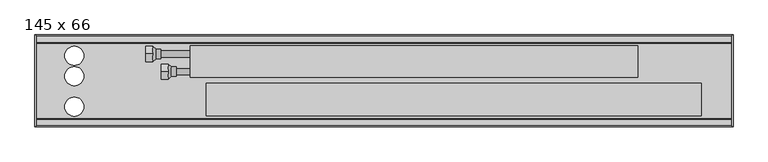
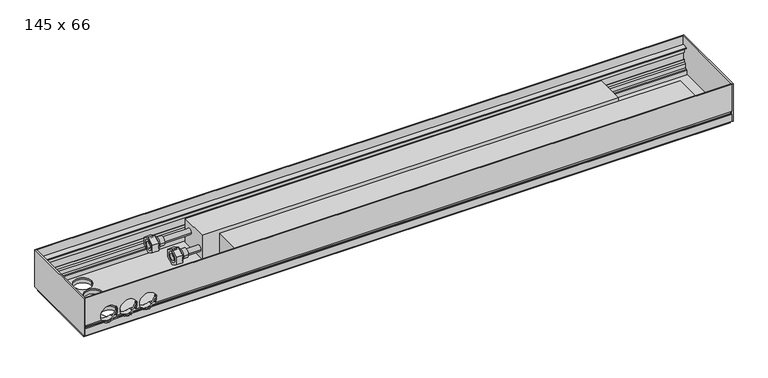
"""IFC4 building model written with IfcOpenShell, lengths in millimetres: proxy geometry, Mohlenhof_Внутрипольный конвектор_QSKM : 145 x 66."""

from ifc_helpers import new_model, si_unit, point, frame, frame_2d, origin, place, context, project, spatial, polyline, circle_curve, ellipse_curve, trimmed, segment, composite_curve, outline, extrude, source, transform, mapped, element, save
from ifc_brep_helpers import plane_surface, cylinder_surface, revolved_surface, advanced_brep


def proxy_145_x_66_fdde3b2e(model_context):
    return source(origin(), model_context, "Body", "SolidModel", [
        advanced_brep(
        [(-340.0, -158.0, -47.5), (-340.0, -146.0, -47.5), (-340.0, -170.0, -47.5), (-327.5, -165.5, -47.5), (-327.5, -150.5, -47.5), (-327.5, -158.0, -47.5), (-335.0, -165.5, -47.5), (-335.0, -150.5, -47.5)],
        [
            (0, 1),
            (1, 2, circle_curve(frame((-340.0, -158.0, -47.5), z_axis=(-1.0, 0.0, 0.0), x_axis=(0.0, 1.0, 0.0)), 12.0)),
            (2, 0),
            (2, 1, circle_curve(frame((-340.0, -158.0, -47.5), z_axis=(-1.0, 0.0, 0.0), x_axis=(0.0, 1.0, 0.0)), 12.0)),
            (3, 4, circle_curve(frame((-327.5, -158.0, -47.5), z_axis=(1.0, 0.0, 0.0), x_axis=(0.0, 1.0, 0.0)), 7.5)),
            (4, 5),
            (5, 3),
            (4, 3, circle_curve(frame((-327.5, -158.0, -47.5), z_axis=(1.0, 0.0, 0.0), x_axis=(0.0, 1.0, 0.0)), 7.5)),
            (6, 7, circle_curve(frame((-335.0, -158.0, -47.5), z_axis=(1.0, 0.0, 0.0), x_axis=(0.0, 1.0, 0.0)), 7.5)),
            (7, 4),
            (3, 6),
            (7, 6, circle_curve(frame((-335.0, -158.0, -47.5), z_axis=(1.0, 0.0, 0.0), x_axis=(0.0, 1.0, 0.0)), 7.5)),
            (1, 7),
            (6, 2),
        ],
        [
            plane_surface(frame((-340.0, -158.0, -47.5), z_axis=(-1.0, 0.0, 0.0), x_axis=(0.0, 1.0, 0.0))),
            plane_surface(frame((-327.5, -158.0, -47.5), z_axis=(1.0, 0.0, 0.0), x_axis=(0.0, 1.0, 0.0))),
            cylinder_surface(frame((-340.0, -158.0, -47.5), z_axis=(-1.0, 0.0, 0.0), x_axis=(0.0, 1.0, 0.0)), 7.5),
            revolved_surface(polyline([(-335.0, -150.5, -47.5), (-340.0, -146.0, -47.5)]), (-340.0, -158.0, -47.5), (-1.0, 0.0, 0.0)),
        ],
        [
            (0, [[1, 2, 3]]),
            (0, [[-3, 4, -1]]),
            (1, [[5, 6, 7]]),
            (1, [[8, -7, -6]]),
            (2, [[9, 10, -5, 11]]),
            (2, [[12, -11, -8, -10]]),
            (3, [[-2, 13, -9, 14]]),
            (3, [[-4, -14, -12, -13]]),
        ],
    ),
        extrude(outline(polyline([(-158.0, -33.6435935), (-146.0, -40.5717968), (-146.0, -54.4282032), (-158.0, -61.3564065), (-170.0, -54.4282032), (-170.0, -40.5717968), (-158.0, -33.6435935)]), holes=[composite_curve([segment(trimmed(circle_curve(frame_2d((-158.0, -47.5)), 8.5), [point((-149.5, -47.5))], [point((-166.5, -47.5))], True, "CARTESIAN"), True, "CONTINUOUS"), segment(trimmed(circle_curve(frame_2d((-158.0, -47.5)), 8.5), [point((-166.5, -47.5))], [point((-149.5, -47.5))], True, "CARTESIAN"), True, "CONTINUOUS")], self_intersect=False)]), frame((-351.0, 0.0, 0.0), z_axis=(1.0, 0.0, 0.0), x_axis=(0.0, 1.0, 0.0)), (0.0, 0.0, 1.0), 11.0),
        advanced_brep(
        [(-364.0, -130.0, -34.5), (-364.0, -118.0, -34.5), (-364.0, -142.0, -34.5), (-351.5, -137.5, -34.5), (-351.5, -122.5, -34.5), (-351.5, -130.0, -34.5), (-359.0, -137.5, -34.5), (-359.0, -122.5, -34.5)],
        [
            (0, 1),
            (1, 2, circle_curve(frame((-364.0, -130.0, -34.5), z_axis=(-1.0, 0.0, 0.0), x_axis=(0.0, 1.0, 0.0)), 12.0)),
            (2, 0),
            (2, 1, circle_curve(frame((-364.0, -130.0, -34.5), z_axis=(-1.0, 0.0, 0.0), x_axis=(0.0, 1.0, 0.0)), 12.0)),
            (3, 4, circle_curve(frame((-351.5, -130.0, -34.5), z_axis=(1.0, 0.0, 0.0), x_axis=(0.0, 1.0, 0.0)), 7.5)),
            (4, 5),
            (5, 3),
            (4, 3, circle_curve(frame((-351.5, -130.0, -34.5), z_axis=(1.0, 0.0, 0.0), x_axis=(0.0, 1.0, 0.0)), 7.5)),
            (6, 7, circle_curve(frame((-359.0, -130.0, -34.5), z_axis=(1.0, 0.0, 0.0), x_axis=(0.0, 1.0, 0.0)), 7.5)),
            (7, 4),
            (3, 6),
            (7, 6, circle_curve(frame((-359.0, -130.0, -34.5), z_axis=(1.0, 0.0, 0.0), x_axis=(0.0, 1.0, 0.0)), 7.5)),
            (1, 7),
            (6, 2),
        ],
        [
            plane_surface(frame((-364.0, -130.0, -34.5), z_axis=(-1.0, 0.0, 0.0), x_axis=(0.0, 1.0, 0.0))),
            plane_surface(frame((-351.5, -130.0, -34.5), z_axis=(1.0, 0.0, 0.0), x_axis=(0.0, 1.0, 0.0))),
            cylinder_surface(frame((-364.0, -130.0, -34.5), z_axis=(-1.0, 0.0, 0.0), x_axis=(0.0, 1.0, 0.0)), 7.5),
            revolved_surface(polyline([(-359.0, -122.5, -34.5), (-364.0, -118.0, -34.5)]), (-364.0, -130.0, -34.5), (-1.0, 0.0, 0.0)),
        ],
        [
            (0, [[1, 2, 3]]),
            (0, [[-3, 4, -1]]),
            (1, [[5, 6, 7]]),
            (1, [[8, -7, -6]]),
            (2, [[9, 10, -5, 11]]),
            (2, [[12, -11, -8, -10]]),
            (3, [[-2, 13, -9, 14]]),
            (3, [[-4, -14, -12, -13]]),
        ],
    ),
        extrude(outline(polyline([(-130.0, -20.6435935), (-118.0, -27.5717968), (-118.0, -41.4282032), (-130.0, -48.3564065), (-142.0, -41.4282032), (-142.0, -27.5717968), (-130.0, -20.6435935)]), holes=[composite_curve([segment(trimmed(circle_curve(frame_2d((-130.0, -34.5)), 8.5), [point((-121.5, -34.5))], [point((-138.5, -34.5))], True, "CARTESIAN"), True, "CONTINUOUS"), segment(trimmed(circle_curve(frame_2d((-130.0, -34.5)), 8.5), [point((-138.5, -34.5))], [point((-121.5, -34.5))], True, "CARTESIAN"), True, "CONTINUOUS")], self_intersect=False)]), frame((-375.0, 0.0, 0.0), z_axis=(1.0, 0.0, 0.0), x_axis=(0.0, 1.0, 0.0)), (0.0, 0.0, 1.0), 11.0),
        extrude(outline(composite_curve([segment(trimmed(circle_curve(frame_2d((-525.0, -223.5)), 4.5), [point((-529.5, -223.5))], [point((-520.5, -223.5))], False, "CARTESIAN"), True, "CONTINUOUS"), segment(trimmed(circle_curve(frame_2d((-525.0, -223.5)), 4.5), [point((-520.5, -223.5))], [point((-529.5, -223.5))], False, "CARTESIAN"), True, "CONTINUOUS")], self_intersect=False)), frame((0.0, 0.0, -79.0), z_axis=(0.0, 0.0, 1.0), x_axis=(1.0, 0.0, 0.0)), (0.0, 0.0, 1.0), 7.0),
        extrude(outline(composite_curve([segment(trimmed(circle_curve(frame_2d((-525.0, -223.5)), 4.0), [point((-529.0, -223.5))], [point((-521.0, -223.5))], False, "CARTESIAN"), True, "CONTINUOUS"), segment(trimmed(circle_curve(frame_2d((-525.0, -223.5)), 4.0), [point((-521.0, -223.5))], [point((-529.0, -223.5))], False, "CARTESIAN"), True, "CONTINUOUS")], self_intersect=False)), frame((0.0, 0.0, -72.0), z_axis=(0.0, 0.0, 1.0), x_axis=(1.0, 0.0, 0.0)), (0.0, 0.0, 1.0), 1.5),
        extrude(outline(composite_curve([segment(trimmed(circle_curve(frame_2d((-525.0, -121.5)), 4.5), [point((-529.5, -121.5))], [point((-520.5, -121.5))], False, "CARTESIAN"), True, "CONTINUOUS"), segment(trimmed(circle_curve(frame_2d((-525.0, -121.5)), 4.5), [point((-520.5, -121.5))], [point((-529.5, -121.5))], False, "CARTESIAN"), True, "CONTINUOUS")], self_intersect=False)), frame((0.0, 0.0, -79.0), z_axis=(0.0, 0.0, 1.0), x_axis=(1.0, 0.0, 0.0)), (0.0, 0.0, 1.0), 7.0),
        extrude(outline(composite_curve([segment(trimmed(circle_curve(frame_2d((-525.0, -121.5)), 4.0), [point((-529.0, -121.5))], [point((-521.0, -121.5))], False, "CARTESIAN"), True, "CONTINUOUS"), segment(trimmed(circle_curve(frame_2d((-525.0, -121.5)), 4.0), [point((-521.0, -121.5))], [point((-529.0, -121.5))], False, "CARTESIAN"), True, "CONTINUOUS")], self_intersect=False)), frame((0.0, 0.0, -72.0), z_axis=(0.0, 0.0, 1.0), x_axis=(1.0, 0.0, 0.0)), (0.0, 0.0, 1.0), 1.5),
        extrude(outline(composite_curve([segment(trimmed(circle_curve(frame_2d((525.0, -223.5)), 4.5), [point((520.5, -223.5))], [point((529.5, -223.5))], False, "CARTESIAN"), True, "CONTINUOUS"), segment(trimmed(circle_curve(frame_2d((525.0, -223.5)), 4.5), [point((529.5, -223.5))], [point((520.5, -223.5))], False, "CARTESIAN"), True, "CONTINUOUS")], self_intersect=False)), frame((0.0, 0.0, -79.0), z_axis=(0.0, 0.0, 1.0), x_axis=(1.0, 0.0, 0.0)), (0.0, 0.0, 1.0), 7.0),
        extrude(outline(composite_curve([segment(trimmed(circle_curve(frame_2d((525.0, -223.5)), 4.0), [point((521.0, -223.5))], [point((529.0, -223.5))], False, "CARTESIAN"), True, "CONTINUOUS"), segment(trimmed(circle_curve(frame_2d((525.0, -223.5)), 4.0), [point((529.0, -223.5))], [point((521.0, -223.5))], False, "CARTESIAN"), True, "CONTINUOUS")], self_intersect=False)), frame((0.0, 0.0, -72.0), z_axis=(0.0, 0.0, 1.0), x_axis=(1.0, 0.0, 0.0)), (0.0, 0.0, 1.0), 1.5),
        extrude(outline(composite_curve([segment(trimmed(circle_curve(frame_2d((525.0, -121.5)), 4.5), [point((520.5, -121.5))], [point((529.5, -121.5))], False, "CARTESIAN"), True, "CONTINUOUS"), segment(trimmed(circle_curve(frame_2d((525.0, -121.5)), 4.5), [point((529.5, -121.5))], [point((520.5, -121.5))], False, "CARTESIAN"), True, "CONTINUOUS")], self_intersect=False)), frame((0.0, 0.0, -79.0), z_axis=(0.0, 0.0, 1.0), x_axis=(1.0, 0.0, 0.0)), (0.0, 0.0, 1.0), 7.0),
        extrude(outline(composite_curve([segment(trimmed(circle_curve(frame_2d((525.0, -121.5)), 4.0), [point((521.0, -121.5))], [point((529.0, -121.5))], False, "CARTESIAN"), True, "CONTINUOUS"), segment(trimmed(circle_curve(frame_2d((525.0, -121.5)), 4.0), [point((529.0, -121.5))], [point((521.0, -121.5))], False, "CARTESIAN"), True, "CONTINUOUS")], self_intersect=False)), frame((0.0, 0.0, -72.0), z_axis=(0.0, 0.0, 1.0), x_axis=(1.0, 0.0, 0.0)), (0.0, 0.0, 1.0), 1.5),
        extrude(outline(polyline([(500.0, -175.87), (500.0, -227.18), (-280.0, -227.18), (-280.0, -175.87), (500.0, -175.87)])), frame((0.0, 0.0, -62.5), z_axis=(0.0, 0.0, 1.0), x_axis=(1.0, 0.0, 0.0)), (0.0, 0.0, 1.0), 43.62),
        extrude(outline(composite_curve([segment(trimmed(circle_curve(frame_2d((-158.0, -47.5)), 5.0), [point((-163.0, -47.5))], [point((-153.0, -47.5))], False, "CARTESIAN"), True, "CONTINUOUS"), segment(trimmed(circle_curve(frame_2d((-158.0, -47.5)), 5.0), [point((-153.0, -47.5))], [point((-163.0, -47.5))], False, "CARTESIAN"), True, "CONTINUOUS")], self_intersect=False)), frame((-351.0, 0.0, 0.0), z_axis=(1.0, 0.0, 0.0), x_axis=(0.0, 1.0, 0.0)), (0.0, 0.0, 1.0), 46.0),
        extrude(outline(composite_curve([segment(trimmed(circle_curve(frame_2d((-130.0, -34.5)), 5.0), [point((-135.0, -34.5))], [point((-125.0, -34.5))], False, "CARTESIAN"), True, "CONTINUOUS"), segment(trimmed(circle_curve(frame_2d((-130.0, -34.5)), 5.0), [point((-125.0, -34.5))], [point((-135.0, -34.5))], False, "CARTESIAN"), True, "CONTINUOUS")], self_intersect=False)), frame((-375.0, 0.0, 0.0), z_axis=(1.0, 0.0, 0.0), x_axis=(0.0, 1.0, 0.0)), (0.0, 0.0, 1.0), 70.0),
        advanced_brep(
        [(548.0, -245.0, -48.5473602), (548.0, -243.5, -49.2468216), (548.0, -242.5, -49.2468216), (548.0, -242.5, -46.0008038), (548.0, -240.0, -46.0008038), (548.0, -240.0, -56.5008038), (548.0, -242.5, -56.5008038), (548.0, -242.5, -53.2468216), (548.0, -243.5, -53.2468216), (548.0, -245.0, -53.9462831), (548.0, -245.0, -66.5), (548.0, -241.0, -66.5), (548.0, -241.0, -65.2), (548.0, -243.0, -65.2), (548.0, -243.0, -62.5), (548.0, -232.0, -62.5), (548.0, -232.0, -54.9172677), (548.0, -233.4172677, -53.5), (548.0, -237.0, -53.5), (548.0, -237.0, -45.91), (548.0, -239.0, -43.91), (548.0, -239.0, -39.5), (548.0, -240.0, -39.5), (548.0, -240.0, -43.5), (548.0, -242.4956439, -43.5), (548.0, -242.4956439, -23.0), (548.0, -240.0, -23.0), (548.0, -240.0, -27.0), (548.0, -239.0, -27.0), (548.0, -239.0, -17.0), (548.0, -233.3956439, -17.0), (548.0, -233.3956439, -15.0), (548.0, -243.4, -15.0), (548.0, -243.4, 0.0), (548.0, -245.0, 0.0), (-548.0, -245.0, -48.5473602), (-548.0, -245.0, 0.0), (-548.0, -243.4, 0.0), (-548.0, -243.4, -15.0), (-548.0, -233.3956439, -15.0), (-548.0, -233.3956439, -17.0), (-548.0, -239.0, -17.0), (-548.0, -239.0, -27.0), (-548.0, -240.0, -27.0), (-548.0, -240.0, -23.0), (-548.0, -242.4956439, -23.0), (-548.0, -242.4956439, -43.5), (-548.0, -240.0, -43.5), (-548.0, -240.0, -39.5), (-548.0, -239.0, -39.5), (-548.0, -239.0, -43.91), (-548.0, -237.0, -45.91), (-548.0, -237.0, -53.5), (-548.0, -233.4172677, -53.5), (-548.0, -232.0, -54.9172677), (-548.0, -232.0, -62.5), (-548.0, -243.0, -62.5), (-548.0, -243.0, -65.2), (-548.0, -241.0, -65.2), (-548.0, -241.0, -66.5), (-548.0, -245.0, -66.5), (-548.0, -245.0, -53.9462831), (-548.0, -243.5, -53.2468216), (-548.0, -242.5, -53.2468216), (-548.0, -242.5, -56.5008038), (-548.0, -240.0, -56.5008038), (-548.0, -240.0, -46.0008038), (-548.0, -242.5, -46.0008038), (-548.0, -242.5, -49.2468216), (-548.0, -243.5, -49.2468216), (-428.7585985, -245.0, -48.5473602), (-429.155283, -243.5, -49.2468216), (-520.844717, -243.5, -49.2468216), (-521.2414015, -245.0, -48.5473602), (-488.2414015, -245.0, -48.5473602), (-494.7585985, -245.0, -48.5473602), (-495.155283, -243.5, -49.2468216), (-487.844717, -243.5, -49.2468216), (-455.2414015, -245.0, -48.5473602), (-461.7585985, -245.0, -48.5473602), (-462.155283, -243.5, -49.2468216), (-454.844717, -243.5, -49.2468216), (-429.155283, -242.5, -49.2468216), (-520.844717, -242.5, -49.2468216), (-495.155283, -242.5, -49.2468216), (-487.844717, -242.5, -49.2468216), (-462.155283, -242.5, -49.2468216), (-454.844717, -242.5, -49.2468216), (-427.6911648, -242.5, -46.0008038), (-522.3088352, -242.5, -46.0008038), (-493.6911648, -242.5, -46.0008038), (-489.3088352, -242.5, -46.0008038), (-460.6911648, -242.5, -46.0008038), (-456.3088352, -242.5, -46.0008038), (-427.6911648, -240.0, -46.0008038), (-522.3088352, -240.0, -46.0008038), (-493.6911648, -240.0, -46.0008038), (-489.3088352, -240.0, -46.0008038), (-460.6911648, -240.0, -46.0008038), (-456.3088352, -240.0, -46.0008038), (-517.328032, -242.5, -53.2468216), (-498.671968, -242.5, -53.2468216), (-484.328032, -242.5, -53.2468216), (-465.671968, -242.5, -53.2468216), (-451.328032, -242.5, -53.2468216), (-432.671968, -242.5, -53.2468216), (-432.671968, -243.5, -53.2468216), (-517.328032, -243.5, -53.2468216), (-498.671968, -243.5, -53.2468216), (-484.328032, -243.5, -53.2468216), (-465.671968, -243.5, -53.2468216), (-451.328032, -243.5, -53.2468216), (-433.6280208, -245.0, -53.9462831), (-516.3719792, -245.0, -53.9462831), (-499.6280208, -245.0, -53.9462831), (-483.3719792, -245.0, -53.9462831), (-466.6280208, -245.0, -53.9462831), (-450.3719792, -245.0, -53.9462831), (-514.7064841, -232.0, -54.9172677), (-501.2935159, -232.0, -54.9172677), (-481.7064841, -232.0, -54.9172677), (-468.2935159, -232.0, -54.9172677), (-448.7064841, -232.0, -54.9172677), (-435.2935159, -232.0, -54.9172677), (-433.0, -233.4172677, -53.5), (-517.0, -233.4172677, -53.5), (-499.0, -233.4172677, -53.5), (-484.0, -233.4172677, -53.5), (-466.0, -233.4172677, -53.5), (-451.0, -233.4172677, -53.5), (-433.0, -237.0, -53.5), (-517.0, -237.0, -53.5), (-499.0, -237.0, -53.5), (-484.0, -237.0, -53.5), (-466.0, -237.0, -53.5), (-451.0, -237.0, -53.5), (-427.6629187, -237.0, -45.91), (-522.3370813, -237.0, -45.91), (-493.6629187, -237.0, -45.91), (-489.3370813, -237.0, -45.91), (-460.6629187, -237.0, -45.91), (-456.3370813, -237.0, -45.91), (-427.1948691, -239.0, -43.91), (-522.8051309, -239.0, -43.91), (-493.1948691, -239.0, -43.91), (-489.8051309, -239.0, -43.91), (-460.1948691, -239.0, -43.91), (-456.8051309, -239.0, -43.91), (-427.0, -239.0, -41.5), (-427.1339313, -239.0, -39.5), (-522.8660687, -239.0, -39.5), (-523.0, -239.0, -41.5), (-493.0, -239.0, -41.5), (-493.1339313, -239.0, -39.5), (-489.8660687, -239.0, -39.5), (-490.0, -239.0, -41.5), (-460.0, -239.0, -41.5), (-460.1339313, -239.0, -39.5), (-456.8660687, -239.0, -39.5), (-457.0, -239.0, -41.5), (-427.1339313, -240.0, -39.5), (-522.8660687, -240.0, -39.5), (-493.1339313, -240.0, -39.5), (-489.8660687, -240.0, -39.5), (-460.1339313, -240.0, -39.5), (-456.8660687, -240.0, -39.5), (-427.0, -240.0, -41.5), (-427.1339313, -240.0, -43.5), (-522.8660687, -240.0, -43.5), (-523.0, -240.0, -41.5), (-493.0, -240.0, -41.5), (-493.1339313, -240.0, -43.5), (-489.8660687, -240.0, -43.5), (-490.0, -240.0, -41.5), (-460.0, -240.0, -41.5), (-460.1339313, -240.0, -43.5), (-456.8660687, -240.0, -43.5), (-457.0, -240.0, -41.5), (-427.1339313, -242.4956439, -43.5), (-522.8660687, -242.4956439, -43.5), (-493.1339313, -242.4956439, -43.5), (-489.8660687, -242.4956439, -43.5), (-460.1339313, -242.4956439, -43.5), (-456.8660687, -242.4956439, -43.5), (-427.0, -242.4956439, -41.5), (-457.0, -242.4956439, -41.5), (-460.0, -242.4956439, -41.5), (-490.0, -242.4956439, -41.5), (-493.0, -242.4956439, -41.5), (-523.0, -242.4956439, -41.5), (-511.8405729, -240.0, -27.0), (-504.1594271, -240.0, -27.0), (-478.8405729, -240.0, -27.0), (-471.1594271, -240.0, -27.0), (-445.8405729, -240.0, -27.0), (-438.1594271, -240.0, -27.0), (-438.1594271, -239.0, -27.0), (-511.8405729, -239.0, -27.0), (-504.1594271, -239.0, -27.0), (-478.8405729, -239.0, -27.0), (-471.1594271, -239.0, -27.0), (-445.8405729, -239.0, -27.0), (-523.0, -245.0, -41.5), (-493.0, -245.0, -41.5), (-490.0, -245.0, -41.5), (-460.0, -245.0, -41.5), (-457.0, -245.0, -41.5), (-427.0, -245.0, -41.5)],
        [
            (0, 1),
            (1, 2),
            (2, 3),
            (3, 4),
            (4, 5),
            (5, 6),
            (6, 7),
            (7, 8),
            (8, 9),
            (9, 10),
            (10, 11),
            (11, 12),
            (12, 13),
            (13, 14),
            (14, 15),
            (15, 16),
            (16, 17),
            (17, 18),
            (18, 19),
            (19, 20),
            (20, 21),
            (21, 22),
            (22, 23),
            (23, 24),
            (24, 25),
            (25, 26),
            (26, 27),
            (27, 28),
            (28, 29),
            (29, 30),
            (30, 31),
            (31, 32),
            (32, 33),
            (33, 34),
            (34, 0),
            (35, 36),
            (36, 37),
            (37, 38),
            (38, 39),
            (39, 40),
            (40, 41),
            (41, 42),
            (42, 43),
            (43, 44),
            (44, 45),
            (45, 46),
            (46, 47),
            (47, 48),
            (48, 49),
            (49, 50),
            (50, 51),
            (51, 52),
            (52, 53),
            (53, 54),
            (54, 55),
            (55, 56),
            (56, 57),
            (57, 58),
            (58, 59),
            (59, 60),
            (60, 61),
            (61, 62),
            (62, 63),
            (63, 64),
            (64, 65),
            (65, 66),
            (66, 67),
            (67, 68),
            (68, 69),
            (69, 35),
            (0, 70),
            (70, 71, ellipse_curve(frame((-442.0, -260.1131126, -41.5), z_axis=(0.0, 0.42261826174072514, 0.9063077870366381), x_axis=(0.0, -0.9063077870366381, 0.42261826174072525)), 35.4930237, 15.0)),
            (71, 1),
            (69, 72),
            (72, 73, ellipse_curve(frame((-508.0, -260.1131126, -41.5), z_axis=(0.0, 0.42261826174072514, 0.9063077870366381), x_axis=(0.0, -0.9063077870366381, 0.42261826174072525)), 35.4930237, 15.0)),
            (73, 35),
            (74, 75),
            (75, 76, ellipse_curve(frame((-508.0, -260.1131126, -41.5), z_axis=(0.0, 0.42261826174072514, 0.9063077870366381), x_axis=(0.0, -0.9063077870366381, 0.42261826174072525)), 35.4930237, 15.0)),
            (76, 77),
            (77, 74, ellipse_curve(frame((-475.0, -260.1131126, -41.5), z_axis=(0.0, 0.42261826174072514, 0.9063077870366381), x_axis=(0.0, -0.9063077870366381, 0.42261826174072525)), 35.4930237, 15.0)),
            (78, 79),
            (79, 80, ellipse_curve(frame((-475.0, -260.1131126, -41.5), z_axis=(0.0, 0.42261826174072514, 0.9063077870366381), x_axis=(0.0, -0.9063077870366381, 0.42261826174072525)), 35.4930237, 15.0)),
            (80, 81),
            (81, 78, ellipse_curve(frame((-442.0, -260.1131126, -41.5), z_axis=(0.0, 0.42261826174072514, 0.9063077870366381), x_axis=(0.0, -0.9063077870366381, 0.42261826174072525)), 35.4930237, 15.0)),
            (71, 82),
            (82, 2),
            (68, 83),
            (83, 72),
            (76, 84),
            (84, 85),
            (85, 77),
            (80, 86),
            (86, 87),
            (87, 81),
            (82, 88, circle_curve(frame((-442.0, -242.5, -41.5), z_axis=(0.0, -1.0, 0.0), x_axis=(1.0, 0.0, 0.0)), 15.0)),
            (88, 3),
            (67, 89),
            (89, 83, circle_curve(frame((-508.0, -242.5, -41.5), z_axis=(0.0, -1.0, 0.0), x_axis=(1.0, 0.0, 0.0)), 15.0)),
            (84, 90, circle_curve(frame((-508.0, -242.5, -41.5), z_axis=(0.0, -1.0, 0.0), x_axis=(1.0, 0.0, 0.0)), 15.0)),
            (90, 91),
            (91, 85, circle_curve(frame((-475.0, -242.5, -41.5), z_axis=(0.0, -1.0, 0.0), x_axis=(1.0, 0.0, 0.0)), 15.0)),
            (86, 92, circle_curve(frame((-475.0, -242.5, -41.5), z_axis=(0.0, -1.0, 0.0), x_axis=(1.0, 0.0, 0.0)), 15.0)),
            (92, 93),
            (93, 87, circle_curve(frame((-442.0, -242.5, -41.5), z_axis=(0.0, -1.0, 0.0), x_axis=(1.0, 0.0, 0.0)), 15.0)),
            (88, 94),
            (94, 4),
            (66, 95),
            (95, 89),
            (90, 96),
            (96, 97),
            (97, 91),
            (92, 98),
            (98, 99),
            (99, 93),
            (94, 99, circle_curve(frame((-442.0, -240.0, -41.5), z_axis=(0.0, 1.0, 0.0), x_axis=(1.0, 0.0, 0.0)), 15.0)),
            (98, 97, circle_curve(frame((-475.0, -240.0, -41.5), z_axis=(0.0, 1.0, 0.0), x_axis=(1.0, 0.0, 0.0)), 15.0)),
            (96, 95, circle_curve(frame((-508.0, -240.0, -41.5), z_axis=(0.0, 1.0, 0.0), x_axis=(1.0, 0.0, 0.0)), 15.0)),
            (65, 5),
            (64, 6),
            (63, 100),
            (100, 101, circle_curve(frame((-508.0, -242.5, -41.5), z_axis=(0.0, -1.0, 0.0), x_axis=(1.0, 0.0, 0.0)), 15.0)),
            (101, 102),
            (102, 103, circle_curve(frame((-475.0, -242.5, -41.5), z_axis=(0.0, -1.0, 0.0), x_axis=(1.0, 0.0, 0.0)), 15.0)),
            (103, 104),
            (104, 105, circle_curve(frame((-442.0, -242.5, -41.5), z_axis=(0.0, -1.0, 0.0), x_axis=(1.0, 0.0, 0.0)), 15.0)),
            (105, 7),
            (105, 106),
            (106, 8),
            (62, 107),
            (107, 100),
            (101, 108),
            (108, 109),
            (109, 102),
            (103, 110),
            (110, 111),
            (111, 104),
            (106, 112, ellipse_curve(frame((-442.0, -218.3088597, -41.5), z_axis=(0.0, 0.42261826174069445, -0.9063077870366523), x_axis=(0.0, -0.9063077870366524, -0.42261826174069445)), 35.4930237, 15.0)),
            (112, 9),
            (61, 113),
            (113, 107, ellipse_curve(frame((-508.0, -218.3088597, -41.5), z_axis=(0.0, 0.42261826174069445, -0.9063077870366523), x_axis=(0.0, -0.9063077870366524, -0.42261826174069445)), 35.4930237, 15.0)),
            (108, 114, ellipse_curve(frame((-508.0, -218.3088597, -41.5), z_axis=(0.0, 0.42261826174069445, -0.9063077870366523), x_axis=(0.0, -0.9063077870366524, -0.42261826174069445)), 35.4930237, 15.0)),
            (114, 115),
            (115, 109, ellipse_curve(frame((-475.0, -218.3088597, -41.5), z_axis=(0.0, 0.42261826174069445, -0.9063077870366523), x_axis=(0.0, -0.9063077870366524, -0.42261826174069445)), 35.4930237, 15.0)),
            (110, 116, ellipse_curve(frame((-475.0, -218.3088597, -41.5), z_axis=(0.0, 0.42261826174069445, -0.9063077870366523), x_axis=(0.0, -0.9063077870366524, -0.42261826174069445)), 35.4930237, 15.0)),
            (116, 117),
            (117, 111, ellipse_curve(frame((-442.0, -218.3088597, -41.5), z_axis=(0.0, 0.42261826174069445, -0.9063077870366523), x_axis=(0.0, -0.9063077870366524, -0.42261826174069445)), 35.4930237, 15.0)),
            (112, 117, circle_curve(frame((-442.0, -245.0, -41.5), z_axis=(0.0, 1.0, 0.0), x_axis=(1.0, 0.0, 0.0)), 15.0)),
            (116, 115, circle_curve(frame((-475.0, -245.0, -41.5), z_axis=(0.0, 1.0, 0.0), x_axis=(1.0, 0.0, 0.0)), 15.0)),
            (114, 113, circle_curve(frame((-508.0, -245.0, -41.5), z_axis=(0.0, 1.0, 0.0), x_axis=(1.0, 0.0, 0.0)), 15.0)),
            (60, 10),
            (59, 11),
            (58, 12),
            (57, 13),
            (56, 14),
            (55, 15),
            (54, 118),
            (118, 119, circle_curve(frame((-508.0, -232.0, -41.5), z_axis=(0.0, -1.0, 0.0), x_axis=(1.0, 0.0, 0.0)), 15.0)),
            (119, 120),
            (120, 121, circle_curve(frame((-475.0, -232.0, -41.5), z_axis=(0.0, -1.0, 0.0), x_axis=(1.0, 0.0, 0.0)), 15.0)),
            (121, 122),
            (122, 123, circle_curve(frame((-442.0, -232.0, -41.5), z_axis=(0.0, -1.0, 0.0), x_axis=(1.0, 0.0, 0.0)), 15.0)),
            (123, 16),
            (123, 124, ellipse_curve(frame((-442.0, -245.4172677, -41.5), z_axis=(0.0, -0.7071067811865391, -0.707106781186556), x_axis=(0.0, -0.7071067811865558, 0.7071067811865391)), 21.2132034, 15.0)),
            (124, 17),
            (53, 125),
            (125, 118, ellipse_curve(frame((-508.0, -245.4172677, -41.5), z_axis=(0.0, -0.7071067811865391, -0.707106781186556), x_axis=(0.0, -0.7071067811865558, 0.7071067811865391)), 21.2132034, 15.0)),
            (119, 126, ellipse_curve(frame((-508.0, -245.4172677, -41.5), z_axis=(0.0, -0.7071067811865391, -0.707106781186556), x_axis=(0.0, -0.7071067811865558, 0.7071067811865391)), 21.2132034, 15.0)),
            (126, 127),
            (127, 120, ellipse_curve(frame((-475.0, -245.4172677, -41.5), z_axis=(0.0, -0.7071067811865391, -0.707106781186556), x_axis=(0.0, -0.7071067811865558, 0.7071067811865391)), 21.2132034, 15.0)),
            (121, 128, ellipse_curve(frame((-475.0, -245.4172677, -41.5), z_axis=(0.0, -0.7071067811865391, -0.707106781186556), x_axis=(0.0, -0.7071067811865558, 0.7071067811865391)), 21.2132034, 15.0)),
            (128, 129),
            (129, 122, ellipse_curve(frame((-442.0, -245.4172677, -41.5), z_axis=(0.0, -0.7071067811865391, -0.707106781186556), x_axis=(0.0, -0.7071067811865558, 0.7071067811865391)), 21.2132034, 15.0)),
            (124, 130),
            (130, 18),
            (52, 131),
            (131, 125),
            (126, 132),
            (132, 133),
            (133, 127),
            (128, 134),
            (134, 135),
            (135, 129),
            (130, 136, circle_curve(frame((-442.0, -237.0, -41.5), z_axis=(0.0, -1.0, 0.0), x_axis=(1.0, 0.0, 0.0)), 15.0)),
            (136, 19),
            (51, 137),
            (137, 131, circle_curve(frame((-508.0, -237.0, -41.5), z_axis=(0.0, -1.0, 0.0), x_axis=(1.0, 0.0, 0.0)), 15.0)),
            (132, 138, circle_curve(frame((-508.0, -237.0, -41.5), z_axis=(0.0, -1.0, 0.0), x_axis=(1.0, 0.0, 0.0)), 15.0)),
            (138, 139),
            (139, 133, circle_curve(frame((-475.0, -237.0, -41.5), z_axis=(0.0, -1.0, 0.0), x_axis=(1.0, 0.0, 0.0)), 15.0)),
            (134, 140, circle_curve(frame((-475.0, -237.0, -41.5), z_axis=(0.0, -1.0, 0.0), x_axis=(1.0, 0.0, 0.0)), 15.0)),
            (140, 141),
            (141, 135, circle_curve(frame((-442.0, -237.0, -41.5), z_axis=(0.0, -1.0, 0.0), x_axis=(1.0, 0.0, 0.0)), 15.0)),
            (136, 142, ellipse_curve(frame((-442.0, -241.41, -41.5), z_axis=(0.0, -0.7071067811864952, -0.7071067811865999), x_axis=(0.0, -0.7071067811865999, 0.7071067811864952)), 21.2132034, 15.0)),
            (142, 20),
            (50, 143),
            (143, 137, ellipse_curve(frame((-508.0, -241.41, -41.5), z_axis=(0.0, -0.7071067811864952, -0.7071067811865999), x_axis=(0.0, -0.7071067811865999, 0.7071067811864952)), 21.2132034, 15.0)),
            (138, 144, ellipse_curve(frame((-508.0, -241.41, -41.5), z_axis=(0.0, -0.7071067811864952, -0.7071067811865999), x_axis=(0.0, -0.7071067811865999, 0.7071067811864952)), 21.2132034, 15.0)),
            (144, 145),
            (145, 139, ellipse_curve(frame((-475.0, -241.41, -41.5), z_axis=(0.0, -0.7071067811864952, -0.7071067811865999), x_axis=(0.0, -0.7071067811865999, 0.7071067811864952)), 21.2132034, 15.0)),
            (140, 146, ellipse_curve(frame((-475.0, -241.41, -41.5), z_axis=(0.0, -0.7071067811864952, -0.7071067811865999), x_axis=(0.0, -0.7071067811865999, 0.7071067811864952)), 21.2132034, 15.0)),
            (146, 147),
            (147, 141, ellipse_curve(frame((-442.0, -241.41, -41.5), z_axis=(0.0, -0.7071067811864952, -0.7071067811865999), x_axis=(0.0, -0.7071067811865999, 0.7071067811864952)), 21.2132034, 15.0)),
            (142, 148, circle_curve(frame((-442.0, -239.0, -41.5), z_axis=(0.0, -1.0, 0.0), x_axis=(1.0, 0.0, 0.0)), 15.0)),
            (148, 149, circle_curve(frame((-442.0, -239.0, -41.5), z_axis=(0.0, -1.0, 0.0), x_axis=(1.0, 0.0, 0.0)), 15.0)),
            (149, 21),
            (49, 150),
            (150, 151, circle_curve(frame((-508.0, -239.0, -41.5), z_axis=(0.0, -1.0, 0.0), x_axis=(1.0, 0.0, 0.0)), 15.0)),
            (151, 143, circle_curve(frame((-508.0, -239.0, -41.5), z_axis=(0.0, -1.0, 0.0), x_axis=(1.0, 0.0, 0.0)), 15.0)),
            (144, 152, circle_curve(frame((-508.0, -239.0, -41.5), z_axis=(0.0, -1.0, 0.0), x_axis=(1.0, 0.0, 0.0)), 15.0)),
            (152, 153, circle_curve(frame((-508.0, -239.0, -41.5), z_axis=(0.0, -1.0, 0.0), x_axis=(1.0, 0.0, 0.0)), 15.0)),
            (153, 154),
            (154, 155, circle_curve(frame((-475.0, -239.0, -41.5), z_axis=(0.0, -1.0, 0.0), x_axis=(1.0, 0.0, 0.0)), 15.0)),
            (155, 145, circle_curve(frame((-475.0, -239.0, -41.5), z_axis=(0.0, -1.0, 0.0), x_axis=(1.0, 0.0, 0.0)), 15.0)),
            (146, 156, circle_curve(frame((-475.0, -239.0, -41.5), z_axis=(0.0, -1.0, 0.0), x_axis=(1.0, 0.0, 0.0)), 15.0)),
            (156, 157, circle_curve(frame((-475.0, -239.0, -41.5), z_axis=(0.0, -1.0, 0.0), x_axis=(1.0, 0.0, 0.0)), 15.0)),
            (157, 158),
            (158, 159, circle_curve(frame((-442.0, -239.0, -41.5), z_axis=(0.0, -1.0, 0.0), x_axis=(1.0, 0.0, 0.0)), 15.0)),
            (159, 147, circle_curve(frame((-442.0, -239.0, -41.5), z_axis=(0.0, -1.0, 0.0), x_axis=(1.0, 0.0, 0.0)), 15.0)),
            (149, 160),
            (160, 22),
            (48, 161),
            (161, 150),
            (153, 162),
            (162, 163),
            (163, 154),
            (157, 164),
            (164, 165),
            (165, 158),
            (160, 166, circle_curve(frame((-442.0, -240.0, -41.5), z_axis=(0.0, 1.0, 0.0), x_axis=(1.0, 0.0, 0.0)), 15.0)),
            (166, 167, circle_curve(frame((-442.0, -240.0, -41.5), z_axis=(0.0, 1.0, 0.0), x_axis=(1.0, 0.0, 0.0)), 15.0)),
            (167, 23),
            (47, 168),
            (168, 169, circle_curve(frame((-508.0, -240.0, -41.5), z_axis=(0.0, 1.0, 0.0), x_axis=(1.0, 0.0, 0.0)), 15.0)),
            (169, 161, circle_curve(frame((-508.0, -240.0, -41.5), z_axis=(0.0, 1.0, 0.0), x_axis=(1.0, 0.0, 0.0)), 15.0)),
            (162, 170, circle_curve(frame((-508.0, -240.0, -41.5), z_axis=(0.0, 1.0, 0.0), x_axis=(1.0, 0.0, 0.0)), 15.0)),
            (170, 171, circle_curve(frame((-508.0, -240.0, -41.5), z_axis=(0.0, 1.0, 0.0), x_axis=(1.0, 0.0, 0.0)), 15.0)),
            (171, 172),
            (172, 173, circle_curve(frame((-475.0, -240.0, -41.5), z_axis=(0.0, 1.0, 0.0), x_axis=(1.0, 0.0, 0.0)), 15.0)),
            (173, 163, circle_curve(frame((-475.0, -240.0, -41.5), z_axis=(0.0, 1.0, 0.0), x_axis=(1.0, 0.0, 0.0)), 15.0)),
            (164, 174, circle_curve(frame((-475.0, -240.0, -41.5), z_axis=(0.0, 1.0, 0.0), x_axis=(1.0, 0.0, 0.0)), 15.0)),
            (174, 175, circle_curve(frame((-475.0, -240.0, -41.5), z_axis=(0.0, 1.0, 0.0), x_axis=(1.0, 0.0, 0.0)), 15.0)),
            (175, 176),
            (176, 177, circle_curve(frame((-442.0, -240.0, -41.5), z_axis=(0.0, 1.0, 0.0), x_axis=(1.0, 0.0, 0.0)), 15.0)),
            (177, 165, circle_curve(frame((-442.0, -240.0, -41.5), z_axis=(0.0, 1.0, 0.0), x_axis=(1.0, 0.0, 0.0)), 15.0)),
            (167, 178),
            (178, 24),
            (46, 179),
            (179, 168),
            (171, 180),
            (180, 181),
            (181, 172),
            (175, 182),
            (182, 183),
            (183, 176),
            (178, 184, circle_curve(frame((-442.0, -242.4956439, -41.5), z_axis=(0.0, -1.0, 0.0), x_axis=(1.0, 0.0, 0.0)), 15.0)),
            (184, 185, circle_curve(frame((-442.0, -242.4956439, -41.5), z_axis=(0.0, -1.0, 0.0), x_axis=(1.0, 0.0, 0.0)), 15.0)),
            (185, 183, circle_curve(frame((-442.0, -242.4956439, -41.5), z_axis=(0.0, -1.0, 0.0), x_axis=(1.0, 0.0, 0.0)), 15.0)),
            (182, 186, circle_curve(frame((-475.0, -242.4956439, -41.5), z_axis=(0.0, -1.0, 0.0), x_axis=(1.0, 0.0, 0.0)), 15.0)),
            (186, 187, circle_curve(frame((-475.0, -242.4956439, -41.5), z_axis=(0.0, -1.0, 0.0), x_axis=(1.0, 0.0, 0.0)), 15.0)),
            (187, 181, circle_curve(frame((-475.0, -242.4956439, -41.5), z_axis=(0.0, -1.0, 0.0), x_axis=(1.0, 0.0, 0.0)), 15.0)),
            (180, 188, circle_curve(frame((-508.0, -242.4956439, -41.5), z_axis=(0.0, -1.0, 0.0), x_axis=(1.0, 0.0, 0.0)), 15.0)),
            (188, 189, circle_curve(frame((-508.0, -242.4956439, -41.5), z_axis=(0.0, -1.0, 0.0), x_axis=(1.0, 0.0, 0.0)), 15.0)),
            (189, 179, circle_curve(frame((-508.0, -242.4956439, -41.5), z_axis=(0.0, -1.0, 0.0), x_axis=(1.0, 0.0, 0.0)), 15.0)),
            (45, 25),
            (44, 26),
            (43, 190),
            (190, 191, circle_curve(frame((-508.0, -240.0, -41.5), z_axis=(0.0, 1.0, 0.0), x_axis=(1.0, 0.0, 0.0)), 15.0)),
            (191, 192),
            (192, 193, circle_curve(frame((-475.0, -240.0, -41.5), z_axis=(0.0, 1.0, 0.0), x_axis=(1.0, 0.0, 0.0)), 15.0)),
            (193, 194),
            (194, 195, circle_curve(frame((-442.0, -240.0, -41.5), z_axis=(0.0, 1.0, 0.0), x_axis=(1.0, 0.0, 0.0)), 15.0)),
            (195, 27),
            (195, 196),
            (196, 28),
            (42, 197),
            (197, 190),
            (191, 198),
            (198, 199),
            (199, 192),
            (193, 200),
            (200, 201),
            (201, 194),
            (196, 201, circle_curve(frame((-442.0, -239.0, -41.5), z_axis=(0.0, -1.0, 0.0), x_axis=(1.0, 0.0, 0.0)), 15.0)),
            (200, 199, circle_curve(frame((-475.0, -239.0, -41.5), z_axis=(0.0, -1.0, 0.0), x_axis=(1.0, 0.0, 0.0)), 15.0)),
            (198, 197, circle_curve(frame((-508.0, -239.0, -41.5), z_axis=(0.0, -1.0, 0.0), x_axis=(1.0, 0.0, 0.0)), 15.0)),
            (41, 29),
            (40, 30),
            (39, 31),
            (38, 32),
            (37, 33),
            (36, 34),
            (73, 202, circle_curve(frame((-508.0, -245.0, -41.5), z_axis=(0.0, 1.0, 0.0), x_axis=(1.0, 0.0, 0.0)), 15.0)),
            (202, 203, circle_curve(frame((-508.0, -245.0, -41.5), z_axis=(0.0, 1.0, 0.0), x_axis=(1.0, 0.0, 0.0)), 15.0)),
            (203, 75, circle_curve(frame((-508.0, -245.0, -41.5), z_axis=(0.0, 1.0, 0.0), x_axis=(1.0, 0.0, 0.0)), 15.0)),
            (74, 204, circle_curve(frame((-475.0, -245.0, -41.5), z_axis=(0.0, 1.0, 0.0), x_axis=(1.0, 0.0, 0.0)), 15.0)),
            (204, 205, circle_curve(frame((-475.0, -245.0, -41.5), z_axis=(0.0, 1.0, 0.0), x_axis=(1.0, 0.0, 0.0)), 15.0)),
            (205, 79, circle_curve(frame((-475.0, -245.0, -41.5), z_axis=(0.0, 1.0, 0.0), x_axis=(1.0, 0.0, 0.0)), 15.0)),
            (78, 206, circle_curve(frame((-442.0, -245.0, -41.5), z_axis=(0.0, 1.0, 0.0), x_axis=(1.0, 0.0, 0.0)), 15.0)),
            (206, 207, circle_curve(frame((-442.0, -245.0, -41.5), z_axis=(0.0, 1.0, 0.0), x_axis=(1.0, 0.0, 0.0)), 15.0)),
            (207, 70, circle_curve(frame((-442.0, -245.0, -41.5), z_axis=(0.0, 1.0, 0.0), x_axis=(1.0, 0.0, 0.0)), 15.0)),
            (151, 169),
            (189, 202),
            (203, 188),
            (170, 152),
            (155, 173),
            (187, 204),
            (205, 186),
            (174, 156),
            (159, 177),
            (185, 206),
            (207, 184),
            (166, 148),
        ],
        [
            plane_surface(frame((548.0, -243.0, -62.5), z_axis=(1.0, 0.0, 0.0), x_axis=(0.0, 0.0, 1.0))),
            plane_surface(frame((-548.0, -243.0, -62.5), z_axis=(-1.0, 0.0, 0.0), x_axis=(0.0, 0.0, 1.0))),
            plane_surface(frame((548.0, -245.0, -48.5473602), z_axis=(0.0, -0.42261826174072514, -0.9063077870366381), x_axis=(-1.0, 0.0, 0.0))),
            plane_surface(frame((548.0, -243.5, -49.2468216), z_axis=(0.0, 0.0, -1.0), x_axis=(-1.0, 0.0, 0.0))),
            plane_surface(frame((548.0, -242.5, -49.2468216), z_axis=(0.0, 1.0, 0.0), x_axis=(-1.0, 0.0, 0.0))),
            plane_surface(frame((548.0, -242.5, -46.0008038), z_axis=(0.0, 0.0, -1.0), x_axis=(-1.0, 0.0, 0.0))),
            plane_surface(frame((548.0, -240.0, -46.0008038), z_axis=(0.0, -1.0, 0.0), x_axis=(-1.0, 0.0, 0.0))),
            plane_surface(frame((548.0, -240.0, -56.5008038), z_axis=(0.0, 0.0, 1.0), x_axis=(-1.0, 0.0, 0.0))),
            plane_surface(frame((548.0, -242.5, -56.5008038), z_axis=(0.0, 1.0, 0.0), x_axis=(-1.0, 0.0, 0.0))),
            plane_surface(frame((548.0, -242.5, -53.2468216), z_axis=(0.0, 0.0, 1.0), x_axis=(-1.0, 0.0, 0.0))),
            plane_surface(frame((548.0, -243.5, -53.2468216), z_axis=(0.0, -0.42261826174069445, 0.9063077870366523), x_axis=(-1.0, 0.0, 0.0))),
            plane_surface(frame((548.0, -245.0, -53.9462831), z_axis=(0.0, -1.0, 0.0), x_axis=(-1.0, 0.0, 0.0))),
            plane_surface(frame((548.0, -245.0, -66.5), z_axis=(0.0, 0.0, -1.0), x_axis=(-1.0, 0.0, 0.0))),
            plane_surface(frame((548.0, -241.0, -66.5), z_axis=(0.0, 1.0, 0.0), x_axis=(-1.0, 0.0, 0.0))),
            plane_surface(frame((548.0, -241.0, -65.2), z_axis=(0.0, 0.0, 1.0), x_axis=(-1.0, 0.0, 0.0))),
            plane_surface(frame((548.0, -243.0, -65.2), z_axis=(0.0, 1.0, 0.0), x_axis=(-1.0, 0.0, 0.0))),
            plane_surface(frame((548.0, -243.0, -62.5), z_axis=(0.0, 0.0, -1.0), x_axis=(-1.0, 0.0, 0.0))),
            plane_surface(frame((548.0, -232.0, -62.5), z_axis=(0.0, 1.0, 0.0), x_axis=(-1.0, 0.0, 0.0))),
            plane_surface(frame((548.0, -232.0, -54.9172677), z_axis=(0.0, 0.7071067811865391, 0.707106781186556), x_axis=(-1.0, 0.0, 0.0))),
            plane_surface(frame((548.0, -233.4172677, -53.5), z_axis=(0.0, 0.0, 1.0), x_axis=(-1.0, 0.0, 0.0))),
            plane_surface(frame((548.0, -237.0, -53.5), z_axis=(0.0, 1.0, 0.0), x_axis=(-1.0, 0.0, 0.0))),
            plane_surface(frame((548.0, -237.0, -45.91), z_axis=(0.0, 0.7071067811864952, 0.7071067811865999), x_axis=(-1.0, 0.0, 0.0))),
            plane_surface(frame((548.0, -239.0, -43.91), z_axis=(0.0, 1.0, 0.0), x_axis=(-1.0, 0.0, 0.0))),
            plane_surface(frame((548.0, -239.0, -39.5), z_axis=(0.0, 0.0, 1.0), x_axis=(-1.0, 0.0, 0.0))),
            plane_surface(frame((548.0, -240.0, -39.5), z_axis=(0.0, -1.0, 0.0), x_axis=(-1.0, 0.0, 0.0))),
            plane_surface(frame((548.0, -240.0, -43.5), z_axis=(0.0, 0.0, 1.0), x_axis=(-1.0, 0.0, 0.0))),
            plane_surface(frame((548.0, -242.4956439, -43.5), z_axis=(0.0, 1.0, 0.0), x_axis=(-1.0, 0.0, 0.0))),
            plane_surface(frame((548.0, -242.4956439, -23.0), z_axis=(0.0, 0.0, -1.0), x_axis=(-1.0, 0.0, 0.0))),
            plane_surface(frame((548.0, -240.0, -23.0), z_axis=(0.0, -1.0, 0.0), x_axis=(-1.0, 0.0, 0.0))),
            plane_surface(frame((548.0, -240.0, -27.0), z_axis=(0.0, 0.0, -1.0), x_axis=(-1.0, 0.0, 0.0))),
            plane_surface(frame((548.0, -239.0, -27.0), z_axis=(0.0, 1.0, 0.0), x_axis=(-1.0, 0.0, 0.0))),
            plane_surface(frame((548.0, -239.0, -17.0), z_axis=(0.0, 0.0, -1.0), x_axis=(-1.0, 0.0, 0.0))),
            plane_surface(frame((548.0, -233.3956439, -17.0), z_axis=(0.0, 1.0, 0.0), x_axis=(-1.0, 0.0, 0.0))),
            plane_surface(frame((548.0, -233.3956439, -15.0), z_axis=(0.0, 0.0, 1.0), x_axis=(-1.0, 0.0, 0.0))),
            plane_surface(frame((548.0, -243.4, -15.0), z_axis=(0.0, 1.0, 0.0), x_axis=(-1.0, 0.0, 0.0))),
            plane_surface(frame((548.0, -243.4, 0.0), z_axis=(0.0, 0.0, 1.0), x_axis=(-1.0, 0.0, 0.0))),
            plane_surface(frame((548.0, -245.0, 0.0), z_axis=(0.0, -1.0, 0.0), x_axis=(-1.0, 0.0, 0.0))),
            revolved_surface(polyline([(-493.0, -250.47646346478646, -41.5), (-493.0, -186.14125593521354, -41.5)]), (-508.0, -213.0, -41.5), (0.0, -1.0, 0.0)),
            revolved_surface(polyline([(-493.0, -292.280716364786, -41.5), (-493.0, -226.41000002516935, -41.5)]), (-508.0, -213.0, -41.5), (0.0, -1.0, 0.0)),
            revolved_surface(polyline([(-493.0, -240.0, -41.5), (-493.0, -239.0, -41.5)]), (-508.0, -213.0, -41.5), (0.0, -1.0, 0.0)),
            revolved_surface(polyline([(-493.0, -245.0, -41.5), (-493.0, -242.4956439, -41.5)]), (-508.0, -213.0, -41.5), (0.0, -1.0, 0.0)),
            revolved_surface(polyline([(-460.0, -250.47646346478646, -41.5), (-460.0, -186.14125593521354, -41.5)]), (-475.0, 0.0, -41.5), (0.0, -1.0, 0.0)),
            revolved_surface(polyline([(-460.0, -292.280716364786, -41.5), (-460.0, -226.41000002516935, -41.5)]), (-475.0, 0.0, -41.5), (0.0, -1.0, 0.0)),
            revolved_surface(polyline([(-460.0, -240.0, -41.5), (-460.0, -239.0, -41.5)]), (-475.0, 0.0, -41.5), (0.0, -1.0, 0.0)),
            revolved_surface(polyline([(-460.0, -245.0, -41.5), (-460.0, -242.4956439, -41.5)]), (-475.0, 0.0, -41.5), (0.0, -1.0, 0.0)),
            revolved_surface(polyline([(-427.0, -250.47646346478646, -41.5), (-427.0, -186.14125593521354, -41.5)]), (-442.0, 0.0, -41.5), (0.0, -1.0, 0.0)),
            revolved_surface(polyline([(-427.0, -292.280716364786, -41.5), (-427.0, -226.41000002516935, -41.5)]), (-442.0, 0.0, -41.5), (0.0, -1.0, 0.0)),
            revolved_surface(polyline([(-427.0, -240.0, -41.5), (-427.0, -239.0, -41.5)]), (-442.0, 0.0, -41.5), (0.0, -1.0, 0.0)),
            revolved_surface(polyline([(-427.0, -245.0, -41.5), (-427.0, -242.4956439, -41.5)]), (-442.0, 0.0, -41.5), (0.0, -1.0, 0.0)),
        ],
        [
            (0, [[1, 2, 3, 4, 5, 6, 7, 8, 9, 10, 11, 12, 13, 14, 15, 16, 17, 18, 19, 20, 21, 22, 23, 24, 25, 26, 27, 28, 29, 30, 31, 32, 33, 34, 35]]),
            (1, [[36, 37, 38, 39, 40, 41, 42, 43, 44, 45, 46, 47, 48, 49, 50, 51, 52, 53, 54, 55, 56, 57, 58, 59, 60, 61, 62, 63, 64, 65, 66, 67, 68, 69, 70]]),
            (2, [[-1, 71, 72, 73]]),
            (2, [[-70, 74, 75, 76]]),
            (2, [[77, 78, 79, 80]]),
            (2, [[81, 82, 83, 84]]),
            (3, [[-2, -73, 85, 86]]),
            (3, [[-69, 87, 88, -74]]),
            (3, [[-79, 89, 90, 91]]),
            (3, [[-83, 92, 93, 94]]),
            (4, [[-3, -86, 95, 96]]),
            (4, [[-68, 97, 98, -87]]),
            (4, [[-90, 99, 100, 101]]),
            (4, [[-93, 102, 103, 104]]),
            (5, [[-4, -96, 105, 106]]),
            (5, [[-67, 107, 108, -97]]),
            (5, [[-100, 109, 110, 111]]),
            (5, [[-103, 112, 113, 114]]),
            (6, [[-5, -106, 115, -113, 116, -110, 117, -107, -66, 118]]),
            (7, [[-6, -118, -65, 119]]),
            (8, [[-7, -119, -64, 120, 121, 122, 123, 124, 125, 126]]),
            (9, [[-8, -126, 127, 128]]),
            (9, [[-63, 129, 130, -120]]),
            (9, [[-122, 131, 132, 133]]),
            (9, [[-124, 134, 135, 136]]),
            (10, [[-9, -128, 137, 138]]),
            (10, [[-62, 139, 140, -129]]),
            (10, [[-132, 141, 142, 143]]),
            (10, [[-135, 144, 145, 146]]),
            (11, [[-10, -138, 147, -145, 148, -142, 149, -139, -61, 150]]),
            (12, [[-11, -150, -60, 151]]),
            (13, [[-12, -151, -59, 152]]),
            (14, [[-13, -152, -58, 153]]),
            (15, [[-14, -153, -57, 154]]),
            (16, [[-15, -154, -56, 155]]),
            (17, [[-16, -155, -55, 156, 157, 158, 159, 160, 161, 162]]),
            (18, [[-17, -162, 163, 164]]),
            (18, [[-54, 165, 166, -156]]),
            (18, [[-158, 167, 168, 169]]),
            (18, [[-160, 170, 171, 172]]),
            (19, [[-18, -164, 173, 174]]),
            (19, [[-53, 175, 176, -165]]),
            (19, [[-168, 177, 178, 179]]),
            (19, [[-171, 180, 181, 182]]),
            (20, [[-19, -174, 183, 184]]),
            (20, [[-52, 185, 186, -175]]),
            (20, [[-178, 187, 188, 189]]),
            (20, [[-181, 190, 191, 192]]),
            (21, [[-20, -184, 193, 194]]),
            (21, [[-51, 195, 196, -185]]),
            (21, [[-188, 197, 198, 199]]),
            (21, [[-191, 200, 201, 202]]),
            (22, [[-21, -194, 203, 204, 205]]),
            (22, [[-50, 206, 207, 208, -195]]),
            (22, [[-198, 209, 210, 211, 212, 213]]),
            (22, [[-201, 214, 215, 216, 217, 218]]),
            (23, [[-22, -205, 219, 220]]),
            (23, [[-49, 221, 222, -206]]),
            (23, [[-211, 223, 224, 225]]),
            (23, [[-216, 226, 227, 228]]),
            (24, [[-23, -220, 229, 230, 231]]),
            (24, [[-48, 232, 233, 234, -221]]),
            (24, [[-224, 235, 236, 237, 238, 239]]),
            (24, [[-227, 240, 241, 242, 243, 244]]),
            (25, [[-24, -231, 245, 246]]),
            (25, [[-47, 247, 248, -232]]),
            (25, [[-237, 249, 250, 251]]),
            (25, [[-242, 252, 253, 254]]),
            (26, [[-25, -246, 255, 256, 257, -253, 258, 259, 260, -250, 261, 262, 263, -247, -46, 264]]),
            (27, [[-26, -264, -45, 265]]),
            (28, [[-27, -265, -44, 266, 267, 268, 269, 270, 271, 272]]),
            (29, [[-28, -272, 273, 274]]),
            (29, [[-43, 275, 276, -266]]),
            (29, [[-268, 277, 278, 279]]),
            (29, [[-270, 280, 281, 282]]),
            (30, [[-29, -274, 283, -281, 284, -278, 285, -275, -42, 286]]),
            (31, [[-30, -286, -41, 287]]),
            (32, [[-31, -287, -40, 288]]),
            (33, [[-32, -288, -39, 289]]),
            (34, [[-33, -289, -38, 290]]),
            (35, [[-34, -290, -37, 291]]),
            (36, [[-35, -291, -36, -76, 292, 293, 294, -77, 295, 296, 297, -81, 298, 299, 300, -71]]),
            (37, [[-121, -130, -140, -149, -141, -131]]),
            (38, [[301, -233, -248, -263, 302, -292, -75, -88, -98, -108, -117, -109, -99, -89, -78, -294, 303, -261, -249, -236, 304, -209, -197, -187, -177, -167, -157, -166, -176, -186, -196, -208]]),
            (39, [[-267, -276, -285, -277]]),
            (39, [[-301, -207, -222, -234]]),
            (40, [[-302, -262, -303, -293]]),
            (39, [[-304, -235, -223, -210]]),
            (41, [[-123, -133, -143, -148, -144, -134]]),
            (42, [[305, -238, -251, -260, 306, -295, -80, -91, -101, -111, -116, -112, -102, -92, -82, -297, 307, -258, -252, -241, 308, -214, -200, -190, -180, -170, -159, -169, -179, -189, -199, -213]]),
            (43, [[-269, -279, -284, -280]]),
            (43, [[-305, -212, -225, -239]]),
            (44, [[-306, -259, -307, -296]]),
            (43, [[-308, -240, -226, -215]]),
            (45, [[-125, -136, -146, -147, -137, -127]]),
            (46, [[309, -243, -254, -257, 310, -298, -84, -94, -104, -114, -115, -105, -95, -85, -72, -300, 311, -255, -245, -230, 312, -203, -193, -183, -173, -163, -161, -172, -182, -192, -202, -218]]),
            (47, [[-271, -282, -283, -273]]),
            (47, [[-309, -217, -228, -244]]),
            (48, [[-310, -256, -311, -299]]),
            (47, [[-312, -229, -219, -204]]),
        ],
    ),
        extrude(outline(polyline([(-100.0, -48.5473602), (-101.5, -49.2468216), (-102.5, -49.2468216), (-102.5, -46.0008038), (-105.0, -46.0008038), (-105.0, -56.5008038), (-102.5, -56.5008038), (-102.5, -53.2468216), (-101.5, -53.2468216), (-100.0, -53.9462831), (-100.0, -66.5), (-104.0, -66.5), (-104.0, -65.2), (-102.0, -65.2), (-102.0, -62.5), (-113.0, -62.5), (-113.0, -54.9172677), (-111.5827323, -53.5), (-108.0, -53.5), (-108.0, -45.91), (-106.0, -43.91), (-106.0, -39.5), (-105.0, -39.5), (-105.0, -43.5), (-102.5043561, -43.5), (-102.5043561, -23.0), (-105.0, -23.0), (-105.0, -27.0), (-106.0, -27.0), (-106.0, -17.0), (-111.6043561, -17.0), (-111.6043561, -15.0), (-101.6, -15.0), (-101.6, 0.0), (-100.0, 0.0), (-100.0, -48.5473602)])), frame((-548.0, 0.0, 0.0), z_axis=(1.0, 0.0, 0.0), x_axis=(0.0, 1.0, 0.0)), (0.0, 0.0, 1.0), 1096.0),
        extrude(outline(polyline([(548.0, -104.499991), (548.0, -240.5), (-548.0, -240.5), (-548.0, -104.499991), (548.0, -104.499991)]), holes=[composite_curve([segment(trimmed(circle_curve(frame_2d((-488.0, -133.0)), 15.0), [point((-503.0, -133.0))], [point((-473.0, -133.0))], True, "CARTESIAN"), True, "CONTINUOUS"), segment(trimmed(circle_curve(frame_2d((-488.0, -133.0)), 15.0), [point((-473.0, -133.0))], [point((-503.0, -133.0))], True, "CARTESIAN"), True, "CONTINUOUS")], self_intersect=False), composite_curve([segment(trimmed(circle_curve(frame_2d((-488.0, -165.0)), 15.0), [point((-503.0, -165.0))], [point((-473.0, -165.0))], True, "CARTESIAN"), True, "CONTINUOUS"), segment(trimmed(circle_curve(frame_2d((-488.0, -165.0)), 15.0), [point((-473.0, -165.0))], [point((-503.0, -165.0))], True, "CARTESIAN"), True, "CONTINUOUS")], self_intersect=False), composite_curve([segment(trimmed(circle_curve(frame_2d((-488.0, -213.0)), 15.0), [point((-503.0, -213.0))], [point((-473.0, -213.0))], True, "CARTESIAN"), True, "CONTINUOUS"), segment(trimmed(circle_curve(frame_2d((-488.0, -213.0)), 15.0), [point((-473.0, -213.0))], [point((-503.0, -213.0))], True, "CARTESIAN"), True, "CONTINUOUS")], self_intersect=False)]), frame((0.0, 0.0, -71.5), z_axis=(0.0, 0.0, 1.0), x_axis=(1.0, 0.0, 0.0)), (0.0, 0.0, 1.0), 6.3),
        extrude(outline(polyline([(548.0, -102.0), (548.0, -243.0), (-548.0, -243.0), (-548.0, -102.0), (548.0, -102.0)]), holes=[composite_curve([segment(trimmed(circle_curve(frame_2d((-488.0, -133.0)), 15.0), [point((-503.0, -133.0))], [point((-473.0, -133.0))], True, "CARTESIAN"), True, "CONTINUOUS"), segment(trimmed(circle_curve(frame_2d((-488.0, -133.0)), 15.0), [point((-473.0, -133.0))], [point((-503.0, -133.0))], True, "CARTESIAN"), True, "CONTINUOUS")], self_intersect=False), composite_curve([segment(trimmed(circle_curve(frame_2d((-488.0, -165.0)), 15.0), [point((-503.0, -165.0))], [point((-473.0, -165.0))], True, "CARTESIAN"), True, "CONTINUOUS"), segment(trimmed(circle_curve(frame_2d((-488.0, -165.0)), 15.0), [point((-473.0, -165.0))], [point((-503.0, -165.0))], True, "CARTESIAN"), True, "CONTINUOUS")], self_intersect=False), composite_curve([segment(trimmed(circle_curve(frame_2d((-488.0, -213.0)), 15.0), [point((-503.0, -213.0))], [point((-473.0, -213.0))], True, "CARTESIAN"), True, "CONTINUOUS"), segment(trimmed(circle_curve(frame_2d((-488.0, -213.0)), 15.0), [point((-473.0, -213.0))], [point((-503.0, -213.0))], True, "CARTESIAN"), True, "CONTINUOUS")], self_intersect=False)]), frame((0.0, 0.0, -65.2), z_axis=(0.0, 0.0, 1.0), x_axis=(1.0, 0.0, 0.0)), (0.0, 0.0, 1.0), 2.7),
        extrude(outline(polyline([(400.0, -117.0), (400.0, -167.0), (-305.0, -167.0), (-305.0, -117.0), (400.0, -117.0)])), frame((0.0, 0.0, -62.5), z_axis=(0.0, 0.0, 1.0), x_axis=(1.0, 0.0, 0.0)), (0.0, 0.0, 1.0), 43.0),
        extrude(outline(polyline([(550.0, -245.0), (548.0, -245.0), (548.0, -100.0), (550.0, -100.0), (550.0, -245.0)])), frame((0.0, 0.0, -66.5), z_axis=(0.0, 0.0, 1.0), x_axis=(1.0, 0.0, 0.0)), (0.0, 0.0, 1.0), 66.5),
        extrude(outline(polyline([(-548.0, -100.0), (-548.0, -245.0), (-550.0, -245.0), (-550.0, -100.0), (-548.0, -100.0)])), frame((0.0, 0.0, -66.5), z_axis=(0.0, 0.0, 1.0), x_axis=(1.0, 0.0, 0.0)), (0.0, 0.0, 1.0), 66.5),
    ])


if __name__ == "__main__":
    model = new_model("IFC4")
    model_context = context("Model", 3, world=origin())
    ifc_project = project(units=[si_unit("LENGTHUNIT", "METRE", prefix="MILLI")], contexts=[model_context])
    site = spatial("IfcSite", under=ifc_project)
    building = spatial("IfcBuilding", under=site)
    placement = place(None, origin())
    proxy_145_x_66_shape = proxy_145_x_66_fdde3b2e(model_context)
    element("IfcBuildingElementProxy", 1, Name="Mohlenhof_Внутрипольный конвектор_QSKM : 145 x 66", ObjectType="Mohlenhof_Внутрипольный конвектор_QSKM : 145 x 66", at=placement, inside=building, context=model_context, shape_type="MappedRepresentation", body=[
        mapped(proxy_145_x_66_shape, transform((0.0, 0.0, 0.0), x_axis=(1.0, 0.0, 0.0), y_axis=(0.0, 1.0, 0.0), z_axis=(0.0, 0.0, 1.0))),
    ])
    save(model, "model.ifc")
